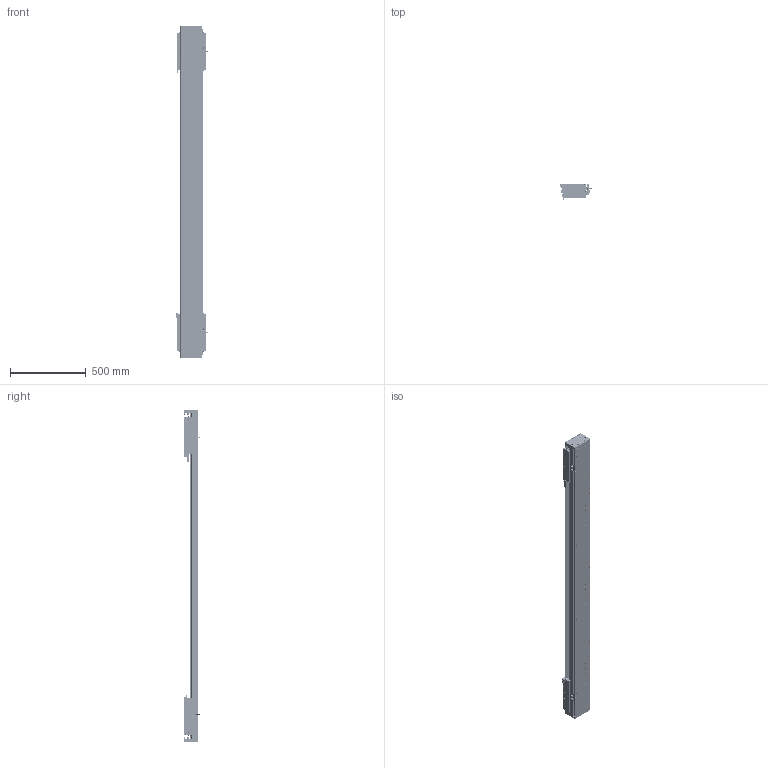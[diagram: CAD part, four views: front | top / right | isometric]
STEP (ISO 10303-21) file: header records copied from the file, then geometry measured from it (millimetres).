
FILE_DESCRIPTION (( 'STEP AP203' ), '1' );
FILE_NAME ('DA-C145-2-C3-T1580-C010-0.2 眻盄萇儂.STEP', '2025-08-13T10:21:36', ( '' ), ( '' ), 'SwSTEP 2.0', 'SolidWorks 2019', '' );
FILE_SCHEMA (( 'CONFIG_CONTROL_DESIGN' ));
Length unit declared in the file: millimetre
Products named in the file (38): DKW-KGZ-ZJ-00 中间光电开关支架; 葩璃 CKM03-W060-C1C2-TP-0.2^DA-C145-2-C3-T-C010-0.2; 葩璃 CU145 詩湍郪璃^DA-C145-2-C3-T-C010-0.2; 复件 DA145-DG 钢带端盖^复件 CU145 钢带组件_DA-C145-2-C3-T-C010-0.2; IU-CU145-L-00 菁釱(L2160); 葩璃 DA95-HXJ-00 遣喳砎蝶^DA-C145-2-C3-T-C010-0.2; IU-CU145-L 菁釱絳寢; 复件 DA145 钢带^复件 CU145 钢带组件_DA-C145-2-C3-T-C010-0.2; 复件 DA146 钢带拉块^复件 CU145 钢带组件_DA-C145-2-C3-T-C010-0.2; DA-C145-2-C3-T1580-C010-0.2 眻盄萇儂; 葩璃 DA145-C3-DP-B-00 菜えB^CU145-W 幗紩賑怢; 葩璃 XD-U-02L 棠掑喜^DA-C145-2-C3-T-C010-0.2; 葩璃 DA145-C3-DP-A-00 菜えA^CU145-W 幗紩賑怢; DKW168-HXJ-ZJ-00 笢潔滅袉砎蝶; CU145-W 幗紩賑怢-1; 66245-CU145-HT-W-00 賑雄怢啣(3D芞祧)(00); 葩璃 CKMA01-W060-TRL^DA-C145-2-C3-T-C010-0.2; 复件 DA95-HK-GT-00 滑块钢轨^CU145-W-00 一体化滑动台板; 复件 DA145-GYP-00 光电感应片^DA-C145-2-C3-T-C010-0.2; TAY01-M8; 复件 DA145-C3-DK-00 挡块^CU145-W 滚珠滑台; 葩璃 DMA-010-0.2 黍杅芛^DA-C145-2-C3-T-C010-0.2; 复件 DA95-MFP-01 密封片^CU145-W 滚珠滑台; DKW-GYP-ZJ-00 笢潔嫖萇覜茼え; 复件 纯铜油杯 6x6mm^CU145-W 滚珠滑台; CU145-W 幗紩賑怢; 复件 DA145-C3-YB-A-00 压板A^CU145-W 滚珠滑台; 葩璃 PM-T45^DA-C145-2-C3-T-C010-0.2; 复件 DA146 钢带垫块^复件 CU145 钢带组件_DA-C145-2-C3-T-C010-0.2; 复件 半圆头内六角螺钉 M3×6^CU145-W 滚珠滑台; CU145-W-00 珨极趙賑雄怢啣; 葩璃 PM-Y65^DA-C145-2-C3-T-C010-0.2; 葩璃 鞠褒情蹟譫 M3^DA-C145-2-C3-T-C010-0.2; 葩璃 DA95-GT-T-00^IU-CU145-L 菁釱絳寢; 复件 DA145-C3-YB-B-00 压板B^CU145-W 滚珠滑台; 复件 DA95-DB-00  挡板^CU145-W 滚珠滑台; 复件 内六角平端紧定螺钉 GB.T77-2000 M5×10^CU145-W 滚珠滑台; CU145-W-00 珨极趙賑雄怢啣-1
Assembly tree (180 placements, depth 4):
  DA-C145-2-C3-T1580-C010-0.2 眻盄萇儂
    IU-CU145-L 菁釱絳寢
      IU-CU145-L-00 菁釱(L2160)
      葩璃 DA95-GT-T-00^IU-CU145-L 菁釱絳寢  x4
    葩璃 CU145 詩湍郪璃^DA-C145-2-C3-T-C010-0.2
      复件 DA145-DG 钢带端盖^复件 CU145 钢带组件_DA-C145-2-C3-T-C010-0.2  x2
      复件 DA146 钢带拉块^复件 CU145 钢带组件_DA-C145-2-C3-T-C010-0.2  x2
      复件 DA146 钢带垫块^复件 CU145 钢带组件_DA-C145-2-C3-T-C010-0.2  x2
      复件 DA145 钢带^复件 CU145 钢带组件_DA-C145-2-C3-T-C010-0.2
    CU145-W 幗紩賑怢
      CU145-W-00 珨极趙賑雄怢啣
        66245-CU145-HT-W-00 賑雄怢啣(3D芞祧)(00)
        复件 DA95-HK-GT-00 滑块钢轨^CU145-W-00 一体化滑动台板  x8
      复件 DA95-MFP-01 密封片^CU145-W 滚珠滑台  x8
      复件 DA95-DB-00  挡板^CU145-W 滚珠滑台  x8
      复件 内六角平端紧定螺钉 GB.T77-2000 M5×10^CU145-W 滚珠滑台  x4
      复件 纯铜油杯 6x6mm^CU145-W 滚珠滑台  x4
      复件 半圆头内六角螺钉 M3×6^CU145-W 滚珠滑台  x16
      复件 DA145-C3-DK-00 挡块^CU145-W 滚珠滑台  x4
      葩璃 DA145-C3-DP-B-00 菜えB^CU145-W 幗紩賑怢  x2
      复件 DA145-C3-YB-B-00 压板B^CU145-W 滚珠滑台  x2
      葩璃 DA145-C3-DP-A-00 菜えA^CU145-W 幗紩賑怢  x3
      复件 DA145-C3-YB-A-00 压板A^CU145-W 滚珠滑台  x3
      TAY01-M8  x4
    CU145-W 幗紩賑怢-1
      CU145-W-00 珨极趙賑雄怢啣-1
        66245-CU145-HT-W-00 賑雄怢啣(3D芞祧)(00)
        复件 DA95-HK-GT-00 滑块钢轨^CU145-W-00 一体化滑动台板  x8
      复件 DA95-MFP-01 密封片^CU145-W 滚珠滑台  x8
      复件 DA95-DB-00  挡板^CU145-W 滚珠滑台  x8
      复件 内六角平端紧定螺钉 GB.T77-2000 M5×10^CU145-W 滚珠滑台  x4
      复件 纯铜油杯 6x6mm^CU145-W 滚珠滑台  x4
      复件 半圆头内六角螺钉 M3×6^CU145-W 滚珠滑台  x16
      复件 DA145-C3-DK-00 挡块^CU145-W 滚珠滑台  x4
      葩璃 DA145-C3-DP-B-00 菜えB^CU145-W 幗紩賑怢  x2
      复件 DA145-C3-YB-B-00 压板B^CU145-W 滚珠滑台  x2
      葩璃 DA145-C3-DP-A-00 菜えA^CU145-W 幗紩賑怢  x3
      复件 DA145-C3-YB-A-00 压板A^CU145-W 滚珠滑台  x3
      TAY01-M8  x4
    葩璃 CKMA01-W060-TRL^DA-C145-2-C3-T-C010-0.2
    葩璃 PM-T45^DA-C145-2-C3-T-C010-0.2  x4
    葩璃 XD-U-02L 棠掑喜^DA-C145-2-C3-T-C010-0.2
    葩璃 DA95-HXJ-00 遣喳砎蝶^DA-C145-2-C3-T-C010-0.2  x4
    葩璃 CKM03-W060-C1C2-TP-0.2^DA-C145-2-C3-T-C010-0.2  x2
    葩璃 DMA-010-0.2 黍杅芛^DA-C145-2-C3-T-C010-0.2  x2
    复件 DA145-GYP-00 光电感应片^DA-C145-2-C3-T-C010-0.2  x2
    DKW-GYP-ZJ-00 笢潔嫖萇覜茼え
    DKW-KGZ-ZJ-00 中间光电开关支架
    葩璃 PM-Y65^DA-C145-2-C3-T-C010-0.2
    葩璃 鞠褒情蹟譫 M3^DA-C145-2-C3-T-C010-0.2  x8
    DKW168-HXJ-ZJ-00 笢潔滅袉砎蝶
Bounding box: 213.7 x 108.45 x 2196 mm (x, y, z)
Volume: 12639046.8 mm3; surface area: 3914709.9 mm2
Topology: 175 solids, 239 shells, 7401 faces, 19779 edges, 12205 vertices
Faces by surface type: cylinder 3118, plane 2943, cone 1184, torus 140, sphere 8, bspline 8
Entity records: 130246 total; most frequent: CARTESIAN_POINT 35990, ORIENTED_EDGE 18244, DIRECTION 17723, EDGE_CURVE 9122, AXIS2_PLACEMENT_3D 6505, VERTEX_POINT 5904, LINE 4713, VECTOR 4713
